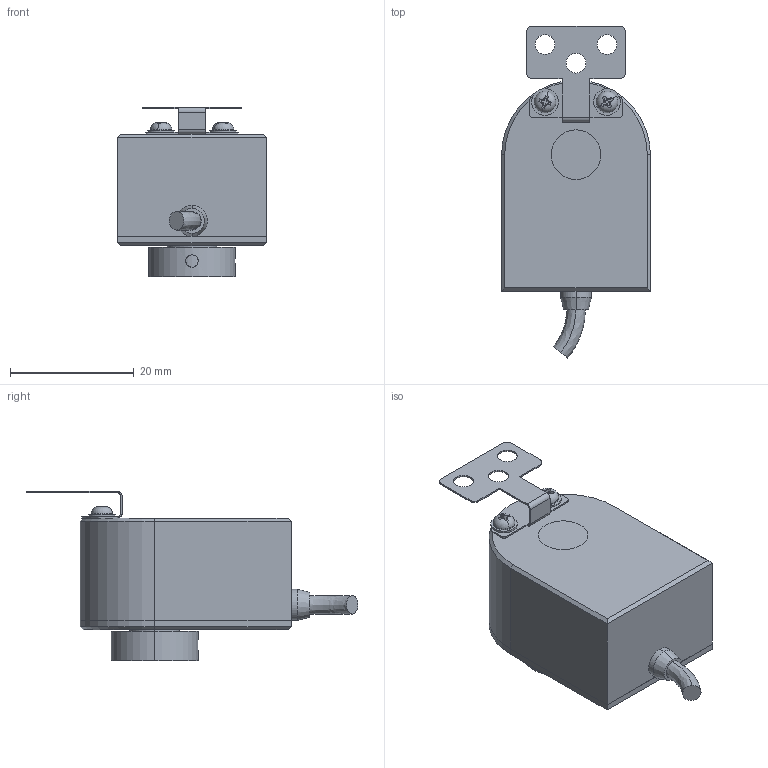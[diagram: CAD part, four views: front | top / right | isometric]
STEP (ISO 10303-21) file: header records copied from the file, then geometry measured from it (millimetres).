
FILE_DESCRIPTION (( 'STEP AP214' ), '1' );
FILE_NAME ('UN_Assem2.STEP', '2024-08-20T00:04:32', ( '' ), ( '' ), 'SwSTEP 2.0', 'SolidWorks 2023', '' );
FILE_SCHEMA (( 'AUTOMOTIVE_DESIGN' ));
Length unit declared in the file: millimetre
Products named in the file (9): SCREW M2 X6 MM; ワッシャ M2; UN_Assem2; UN_Part3; UN_Part1; UN_Assem1; UN_Part4; UN_Part2; UN_Part5
Assembly tree (10 placements, depth 3):
  UN_Assem2
    UN_Assem1
      UN_Part1
      UN_Part2
      UN_Part3
      UN_Part4
    UN_Part5
    ワッシャ M2  x2
    SCREW M2 X6 MM  x2
Bounding box: 24 x 53.52 x 27.3 mm (x, y, z)
Volume: 14464.9 mm3; surface area: 7201.8 mm2
Topology: 9 solids, 9 shells, 159 faces, 392 edges, 254 vertices
Faces by surface type: plane 73, cylinder 58, bspline 12, cone 12, torus 4
Entity records: 4472 total; most frequent: CARTESIAN_POINT 1093, DIRECTION 679, ORIENTED_EDGE 624, EDGE_CURVE 312, AXIS2_PLACEMENT_3D 259, VERTEX_POINT 199, LINE 161, VECTOR 161
